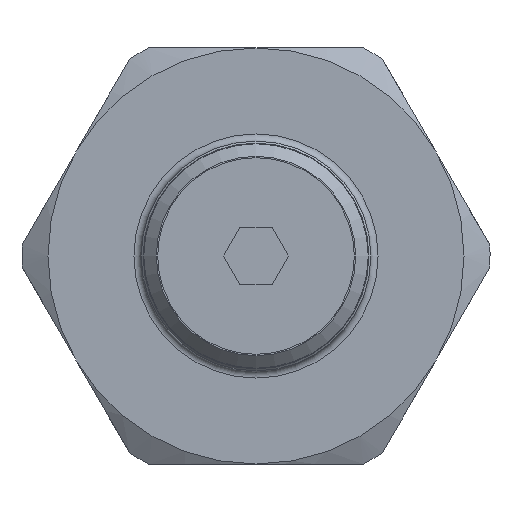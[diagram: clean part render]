
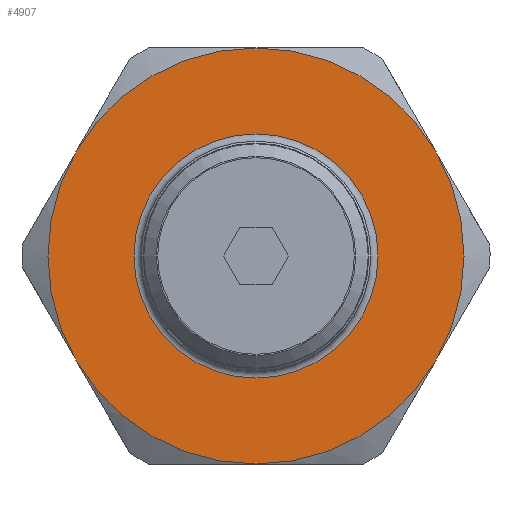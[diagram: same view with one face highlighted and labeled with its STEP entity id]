
A CAD part, left-side view. The second image highlights one B-rep face of the part: STEP entity #4907.
In plain terms, the highlighted planar face has unit normal (-1, 0, 0).
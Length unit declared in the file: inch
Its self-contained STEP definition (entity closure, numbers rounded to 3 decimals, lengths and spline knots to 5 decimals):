
#857=FACE_BOUND('',#1325,.T.);
#931=PLANE('',#5299);
#1040=FACE_OUTER_BOUND('',#1324,.T.);
#1324=EDGE_LOOP('',(#3551));
#1325=EDGE_LOOP('',(#3552,#3553));
#1655=CIRCLE('',#5232,0.272);
#1660=CIRCLE('',#5237,0.272);
#1701=CIRCLE('',#5300,0.4635);
#2006=VERTEX_POINT('',#7350);
#2007=VERTEX_POINT('',#7351);
#2051=VERTEX_POINT('',#7482);
#2575=EDGE_CURVE('',#2006,#2007,#1655,.T.);
#2580=EDGE_CURVE('',#2007,#2006,#1660,.T.);
#2640=EDGE_CURVE('',#2051,#2051,#1701,.T.);
#3551=ORIENTED_EDGE('',*,*,#2640,.T.);
#3552=ORIENTED_EDGE('',*,*,#2575,.F.);
#3553=ORIENTED_EDGE('',*,*,#2580,.F.);
#4907=ADVANCED_FACE('',(#1040,#857),#931,.T.);
#5232=AXIS2_PLACEMENT_3D('',#7352,#5948,#5949);
#5237=AXIS2_PLACEMENT_3D('',#7360,#5958,#5959);
#5299=AXIS2_PLACEMENT_3D('',#7481,#6101,#6102);
#5300=AXIS2_PLACEMENT_3D('',#7483,#6103,#6104);
#5948=DIRECTION('center_axis',(-1.,0.,0.));
#5949=DIRECTION('ref_axis',(0.,0.,1.));
#5958=DIRECTION('center_axis',(-1.,0.,0.));
#5959=DIRECTION('ref_axis',(0.,0.,1.));
#6101=DIRECTION('center_axis',(-1.,0.,0.));
#6102=DIRECTION('ref_axis',(0.,0.,1.));
#6103=DIRECTION('center_axis',(-1.,0.,0.));
#6104=DIRECTION('ref_axis',(0.,0.,-1.));
#7350=CARTESIAN_POINT('',(-0.484,0.272,0.));
#7351=CARTESIAN_POINT('',(-0.484,0.,-0.272));
#7352=CARTESIAN_POINT('Origin',(-0.484,0.,0.));
#7360=CARTESIAN_POINT('Origin',(-0.484,0.,0.));
#7481=CARTESIAN_POINT('Origin',(-0.484,0.,
0.));
#7482=CARTESIAN_POINT('',(-0.484,0.,0.4635));
#7483=CARTESIAN_POINT('Origin',(-0.484,0.,0.));
